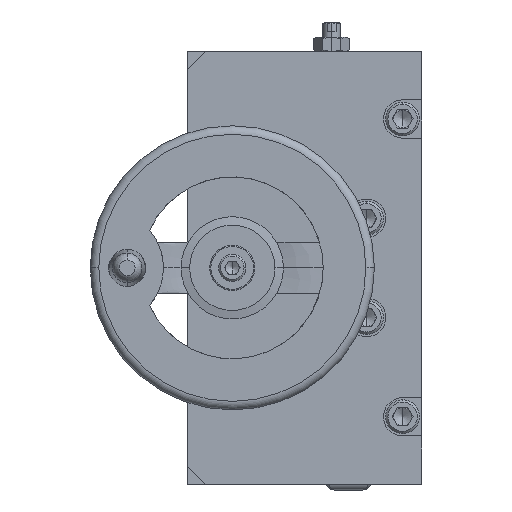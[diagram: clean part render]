
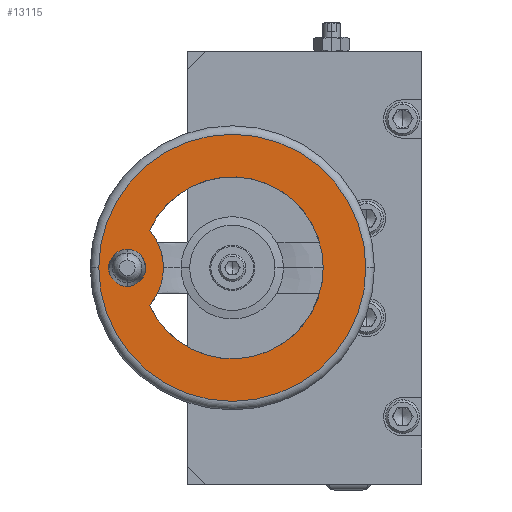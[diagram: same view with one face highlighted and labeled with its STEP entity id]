
A CAD part, left-side view. The second image highlights one B-rep face of the part: STEP entity #13115.
In plain terms, the highlighted planar face has unit normal (-1, 0, 0) as drawn and (0, 1, 0) by its records, which use the part's own axes.
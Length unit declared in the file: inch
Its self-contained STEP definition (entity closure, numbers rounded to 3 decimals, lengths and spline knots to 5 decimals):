
#1441 = FACE_BOUND ( 'NONE', #6669, .T. ) ;
#1444 = DIRECTION ( 'NONE',  ( 0., 1., 0. ) ) ;
#1447 = CARTESIAN_POINT ( 'NONE',  ( 1.25984, 1.53543, 0. ) ) ;
#1448 = FACE_BOUND ( 'NONE', #6674, .T. ) ;
#1450 = FACE_OUTER_BOUND ( 'NONE', #6439, .T. ) ;
#1451 = PLANE ( 'NONE',  #2394 ) ;
#1452 = DIRECTION ( 'NONE',  ( 0., 0., 1. ) ) ;
#2394 = AXIS2_PLACEMENT_3D ( 'NONE', #1447, #1444, #1452 ) ;
#4029 = CARTESIAN_POINT ( 'NONE',  ( 0., 1.53543, -0.95472 ) ) ;
#4030 = CARTESIAN_POINT ( 'NONE',  ( -0.51894, 1.53543, -1.148 ) ) ;
#4424 = CARTESIAN_POINT ( 'NONE',  ( 0., 1.53543, 1.25984 ) ) ;
#4425 = CARTESIAN_POINT ( 'NONE',  ( 0.51894, 1.53543, -1.148 ) ) ;
#4451 = CARTESIAN_POINT ( 'NONE',  ( 0., 1.53543, -1.85039 ) ) ;
#4452 = CARTESIAN_POINT ( 'NONE',  ( 0., 1.53543, 1.85039 ) ) ;
#4601 = CARTESIAN_POINT ( 'NONE',  ( -0.25591, 1.53543, -1.45669 ) ) ;
#4607 = CARTESIAN_POINT ( 'NONE',  ( 0.25591, 1.53543, -1.45669 ) ) ;
#6439 = EDGE_LOOP ( 'NONE', ( #10798, #10801 ) ) ;
#6669 = EDGE_LOOP ( 'NONE', ( #10793, #10790 ) ) ;
#6674 = EDGE_LOOP ( 'NONE', ( #10789, #10786, #10791, #10794 ) ) ;
#7055 = CIRCLE ( 'NONE', #7267, 0.25591 ) ;
#7101 = AXIS2_PLACEMENT_3D ( 'NONE', #18060, #18061, #18062 ) ;
#7116 = CIRCLE ( 'NONE', #7101, 0.25591 ) ;
#7220 = AXIS2_PLACEMENT_3D ( 'NONE', #17859, #17860, #17861 ) ;
#7223 = AXIS2_PLACEMENT_3D ( 'NONE', #17840, #17841, #17842 ) ;
#7228 = CIRCLE ( 'NONE', #7223, 0.79331 ) ;
#7229 = CIRCLE ( 'NONE', #7220, 0.79331 ) ;
#7267 = AXIS2_PLACEMENT_3D ( 'NONE', #17272, #17273, #17274 ) ;
#7269 = AXIS2_PLACEMENT_3D ( 'NONE', #17671, #17672, #17673 ) ;
#7274 = CIRCLE ( 'NONE', #7269, 1.85039 ) ;
#7291 = AXIS2_PLACEMENT_3D ( 'NONE', #17656, #17657, #17658 ) ;
#7352 = CIRCLE ( 'NONE', #7291, 1.25984 ) ;
#7386 = AXIS2_PLACEMENT_3D ( 'NONE', #17589, #17590, #17591 ) ;
#7400 = CIRCLE ( 'NONE', #7386, 1.85039 ) ;
#7422 = CIRCLE ( 'NONE', #7425, 1.25984 ) ;
#7425 = AXIS2_PLACEMENT_3D ( 'NONE', #17579, #17580, #17581 ) ;
#9075 = EDGE_CURVE ( 'NONE', #14267, #14261, #7055, .T. ) ;
#9110 = EDGE_CURVE ( 'NONE', #13690, #14084, #7422, .T. ) ;
#9113 = EDGE_CURVE ( 'NONE', #14111, #14112, #7400, .T. ) ;
#9126 = EDGE_CURVE ( 'NONE', #14084, #14085, #7352, .T. ) ;
#9132 = EDGE_CURVE ( 'NONE', #14112, #14111, #7274, .T. ) ;
#9158 = EDGE_CURVE ( 'NONE', #13690, #13689, #7228, .T. ) ;
#9163 = EDGE_CURVE ( 'NONE', #13689, #14085, #7229, .T. ) ;
#9245 = EDGE_CURVE ( 'NONE', #14261, #14267, #7116, .T. ) ;
#10786 = ORIENTED_EDGE ( 'NONE', *, *, #9163, .T. ) ;
#10789 = ORIENTED_EDGE ( 'NONE', *, *, #9158, .T. ) ;
#10790 = ORIENTED_EDGE ( 'NONE', *, *, #9075, .F. ) ;
#10791 = ORIENTED_EDGE ( 'NONE', *, *, #9126, .F. ) ;
#10793 = ORIENTED_EDGE ( 'NONE', *, *, #9245, .F. ) ;
#10794 = ORIENTED_EDGE ( 'NONE', *, *, #9110, .F. ) ;
#10798 = ORIENTED_EDGE ( 'NONE', *, *, #9132, .T. ) ;
#10801 = ORIENTED_EDGE ( 'NONE', *, *, #9113, .T. ) ;
#13115 = ADVANCED_FACE ( 'NONE', ( #1441, #1448, #1450 ), #1451, .T. ) ;
#13689 = VERTEX_POINT ( 'NONE', #4029 ) ;
#13690 = VERTEX_POINT ( 'NONE', #4030 ) ;
#14084 = VERTEX_POINT ( 'NONE', #4424 ) ;
#14085 = VERTEX_POINT ( 'NONE', #4425 ) ;
#14111 = VERTEX_POINT ( 'NONE', #4451 ) ;
#14112 = VERTEX_POINT ( 'NONE', #4452 ) ;
#14261 = VERTEX_POINT ( 'NONE', #4601 ) ;
#14267 = VERTEX_POINT ( 'NONE', #4607 ) ;
#17272 = CARTESIAN_POINT ( 'NONE',  ( 0., 1.53543, -1.45669 ) ) ;
#17273 = DIRECTION ( 'NONE',  ( 0., 1., 0. ) ) ;
#17274 = DIRECTION ( 'NONE',  ( 0., 0., 1. ) ) ;
#17579 = CARTESIAN_POINT ( 'NONE',  ( 0., 1.53543, 0. ) ) ;
#17580 = DIRECTION ( 'NONE',  ( 0., 1., 0. ) ) ;
#17581 = DIRECTION ( 'NONE',  ( 0., 0., 1. ) ) ;
#17589 = CARTESIAN_POINT ( 'NONE',  ( 0., 1.53543, 0. ) ) ;
#17590 = DIRECTION ( 'NONE',  ( 0., 1., 0. ) ) ;
#17591 = DIRECTION ( 'NONE',  ( 0., 0., 1. ) ) ;
#17656 = CARTESIAN_POINT ( 'NONE',  ( 0., 1.53543, 0. ) ) ;
#17657 = DIRECTION ( 'NONE',  ( 0., 1., 0. ) ) ;
#17658 = DIRECTION ( 'NONE',  ( 0., 0., 1. ) ) ;
#17671 = CARTESIAN_POINT ( 'NONE',  ( 0., 1.53543, 0. ) ) ;
#17672 = DIRECTION ( 'NONE',  ( 0., 1., 0. ) ) ;
#17673 = DIRECTION ( 'NONE',  ( 0., 0., 1. ) ) ;
#17840 = CARTESIAN_POINT ( 'NONE',  ( 0., 1.53543, -1.74803 ) ) ;
#17841 = DIRECTION ( 'NONE',  ( 0., 1., 0. ) ) ;
#17842 = DIRECTION ( 'NONE',  ( 1., 0., 0. ) ) ;
#17859 = CARTESIAN_POINT ( 'NONE',  ( 0., 1.53543, -1.74803 ) ) ;
#17860 = DIRECTION ( 'NONE',  ( 0., 1., 0. ) ) ;
#17861 = DIRECTION ( 'NONE',  ( 1., 0., 0. ) ) ;
#18060 = CARTESIAN_POINT ( 'NONE',  ( 0., 1.53543, -1.45669 ) ) ;
#18061 = DIRECTION ( 'NONE',  ( 0., 1., 0. ) ) ;
#18062 = DIRECTION ( 'NONE',  ( 0., 0., 1. ) ) ;
